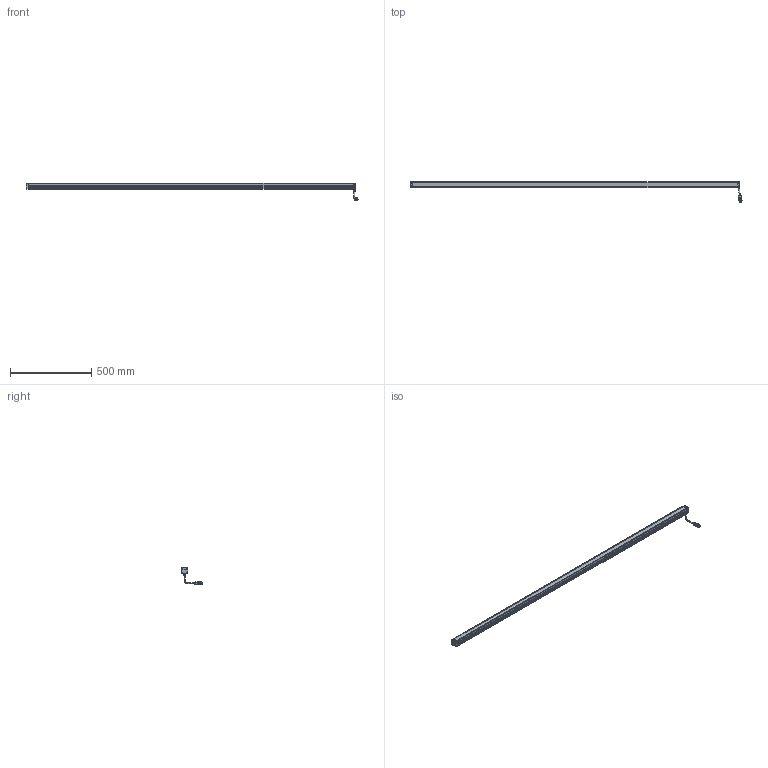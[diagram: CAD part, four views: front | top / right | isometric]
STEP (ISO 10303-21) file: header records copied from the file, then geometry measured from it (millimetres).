
FILE_DESCRIPTION(/* description */ (''),/* implementation_level */ '2;1');
FILE_NAME(/* name */ 'LBHP2000',/* time_stamp */ '2025-01-14T08:11:45+01:00',/* author */ (''),/* organization */ ('iiM AG'),/* preprocessor_version */ 'ST-DEVELOPER v16.7',/* originating_system */ 'DEX',/* authorisation */ $);
FILE_SCHEMA (('AUTOMOTIVE_DESIGN {1 0 10303 214 3 1 1}'));
Length unit declared in the file: millimetre
Products named in the file (1): step export
Bounding box: 2044.79 x 126.2 x 109.58 mm (x, y, z)
Volume: 2582971.8 mm3; surface area: 571289.4 mm2
Topology: 2 solids, 2 shells, 882 faces, 2334 edges, 1476 vertices
Faces by surface type: cylinder 368, plane 336, cone 138, sphere 21, torus 16, bspline 3
Full cylindrical faces by diameter (mm): 1.001 x12, 2.693 x4, 3 x2, 3.1 x4, 3.242 x6, 3.8 x8, 5.6 x8, 6 x8, 6.8 x2, 8.008 x1, 10 x1, 11 x1, 12.9 x2, 14 x1, 15.015 x1, 16.016 x1, 17.518 x1, 18.519 x3, 18.619 x2
Entity records: 32582 total; most frequent: CARTESIAN_POINT 6224, ORIENTED_EDGE 4118, DIRECTION 4048, EDGE_CURVE 2059, AXIS2_PLACEMENT_3D 1523, VERTEX_POINT 1383, FACE_BOUND 1100, EDGE_LOOP 1086
